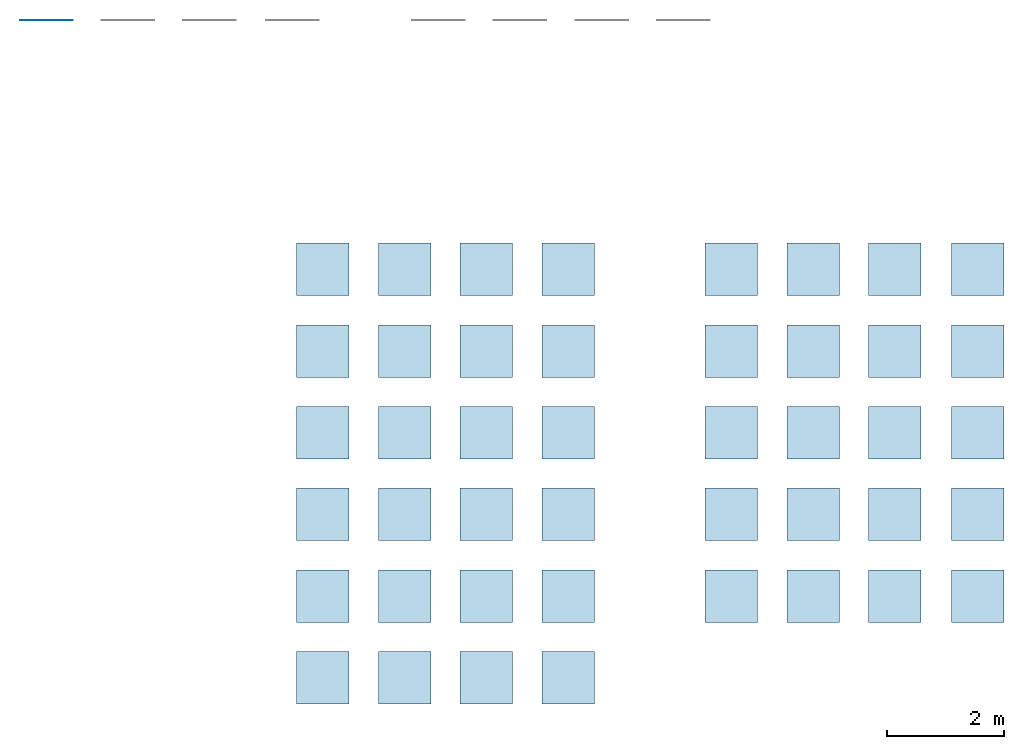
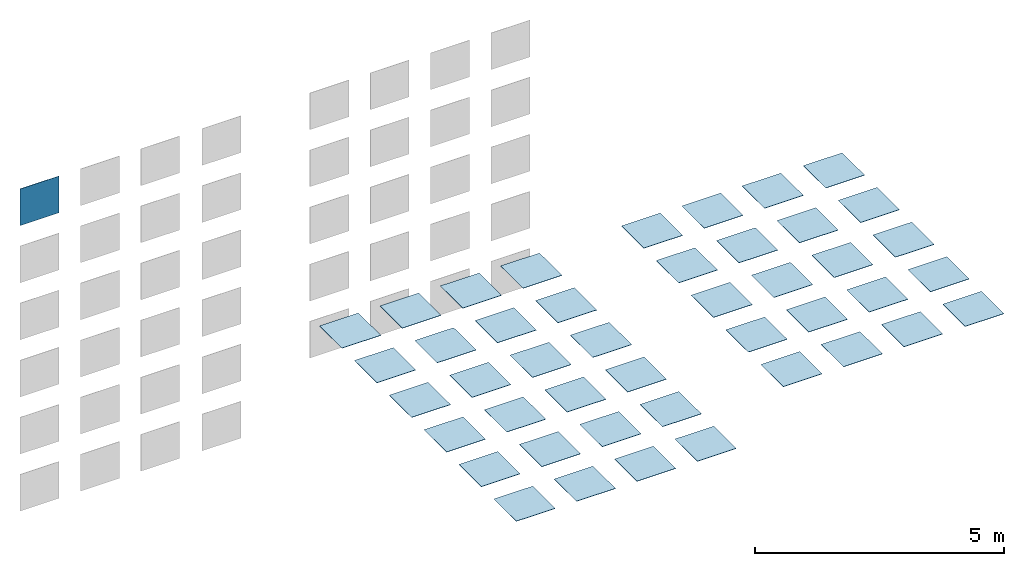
# One storey, part 1 of 3: 44 slabs, 1 wall.
"""IFC2X3 building model written with IfcOpenShell, lengths in metres."""

import ifcopenshell
import ifcopenshell.guid

model = None  # the IFC model being written
_history = None  # IfcOwnerHistory: only IFC2X3 demands one
_inside = {}  # id of a spatial element -> (the spatial element, [elements in it])
_under = {}  # id of a project, library or spatial element -> (it, [spatial elements below it])
_declared = {}  # id of a project -> (the project, [libraries it declares])
_typed = {}  # id of a type object -> (the type object, [elements of that type])
_made_of = {}  # id of a material, layer set ... -> (it, [elements and type objects made of it])


def new_model(schema):
    """Start an empty IFC model of exactly this schema.

    Asked for "IFC4X3", IfcOpenShell would pick the latest addendum, in which some entities
    have other attributes; the version numbers below select the first issue.
    IFC2X3 requires an IfcOwnerHistory on every rooted entity: one is made here for all.
    """
    global model, _history
    if schema == "IFC4X3":
        model = ifcopenshell.file(schema_version=(4, 3, 0, 0))
    else:
        model = ifcopenshell.file(schema=schema)
    _inside.clear()
    _under.clear()
    _declared.clear()
    _typed.clear()
    _made_of.clear()
    _history = None
    if model.schema == "IFC2X3":
        org = make("IfcOrganization", Name="unknown")
        user = make(
            "IfcPersonAndOrganization",
            ThePerson=make("IfcPerson", FamilyName="unknown"),
            TheOrganization=org,
        )
        app = make(
            "IfcApplication",
            ApplicationDeveloper=org,
            Version="unknown",
            ApplicationFullName="unknown",
            ApplicationIdentifier="unknown",
        )
        _history = make(
            "IfcOwnerHistory",
            OwningUser=user,
            OwningApplication=app,
            ChangeAction="ADDED",
            CreationDate=0,
        )
    return model


def make(cls, **values):
    """One entity of the class cls with the attributes given. An attribute that is None is left unset."""
    return model.create_entity(
        cls, **{name: value for name, value in values.items() if value is not None}
    )


def entity(cls, *values):
    """Any entity or typed value of the class cls, its attributes in the order of the schema. None: left unset."""
    e = model.create_entity(cls)
    for i, value in enumerate(values):
        if value is not None:
            e[i] = value
    return e


def rooted(cls, **values):
    """An entity with a GlobalId (a new one), such as an element, a storey or a relation."""
    return make(cls, GlobalId=ifcopenshell.guid.new(), OwnerHistory=_history, **values)


def si_unit(unit_type, name, prefix=None):
    """IfcSIUnit, for example si_unit("LENGTHUNIT", "METRE", prefix="MILLI")."""
    return make("IfcSIUnit", UnitType=unit_type, Prefix=prefix, Name=name)


def converted_unit(unit_type, name, factor, base, dimensions=None, offset=None):
    """IfcConversionBasedUnit, such as the inch: factor (a typed value) times the base unit."""
    return make(
        "IfcConversionBasedUnit"
        if offset is None
        else "IfcConversionBasedUnitWithOffset",
        ConversionOffset=offset,
        Dimensions=None
        if dimensions is None
        else entity("IfcDimensionalExponents", *dimensions),
        UnitType=unit_type,
        Name=name,
        ConversionFactor=make(
            "IfcMeasureWithUnit", ValueComponent=factor, UnitComponent=base
        ),
    )


def derived_unit(unit_type, elements):
    """IfcDerivedUnit: a product of units, each with its exponent."""
    return make(
        "IfcDerivedUnit",
        Elements=[
            make("IfcDerivedUnitElement", Unit=unit, Exponent=power)
            for unit, power in elements
        ],
        UnitType=unit_type,
    )


def assignment(units):
    """IfcUnitAssignment: the units of a project."""
    return None if units is None else make("IfcUnitAssignment", Units=units)


def point(xyz):
    """IfcCartesianPoint."""
    return None if xyz is None else make("IfcCartesianPoint", Coordinates=xyz)


def direction(xyz):
    """IfcDirection."""
    return None if xyz is None else make("IfcDirection", DirectionRatios=xyz)


def frame(location, z_axis=None, x_axis=None):
    """IfcAxis2Placement3D, a coordinate frame: its origin and axes. An axis left out is left unset."""
    return make(
        "IfcAxis2Placement3D",
        Location=point(location),
        Axis=direction(z_axis),
        RefDirection=direction(x_axis),
    )


def frame_2d(location, x_axis=None):
    """IfcAxis2Placement2D, a coordinate frame in the plane: its origin and x axis."""
    return make(
        "IfcAxis2Placement2D", Location=point(location), RefDirection=direction(x_axis)
    )


def origin():
    """The frame at (0, 0, 0) with its axes left unset."""
    return frame((0.0, 0.0, 0.0))


def origin_2d_with_axis():
    """The frame at (0, 0) in the plane with the x axis (1, 0) written out."""
    return frame_2d((0.0, 0.0), x_axis=(1.0, 0.0))


def place(relative_to, where):
    """IfcLocalPlacement: puts the frame where relative to a parent placement (None: the world)."""
    return make(
        "IfcLocalPlacement", PlacementRelTo=relative_to, RelativePlacement=where
    )


def context(
    kind, dimensions, precision=None, world=None, true_north=None, identifier=None
):
    """IfcGeometricRepresentationContext, for example the 3D "Model" context."""
    return make(
        "IfcGeometricRepresentationContext",
        ContextIdentifier=identifier,
        ContextType=kind,
        CoordinateSpaceDimension=dimensions,
        Precision=precision,
        WorldCoordinateSystem=world,
        TrueNorth=true_north,
    )


def subcontext(parent, identifier, kind, view, scale=None):
    """IfcGeometricRepresentationSubContext, for example "Body" below "Model"."""
    return make(
        "IfcGeometricRepresentationSubContext",
        ContextIdentifier=identifier,
        ContextType=kind,
        ParentContext=parent,
        TargetScale=scale,
        TargetView=view,
    )


def project(units=None, contexts=None):
    """IfcProject with its units and contexts."""
    return rooted(
        "IfcProject",
        Name="project",
        RepresentationContexts=contexts,
        UnitsInContext=assignment(units),
    )


def spatial(cls, under=None, at=None, **own):
    """A site, building, storey or space (cls), placed at a placement, below another one or the project."""
    s = rooted(cls, ObjectPlacement=at, **own)
    if under is not None:
        _under.setdefault(under.id(), (under, []))[1].append(s)
    return s


def profile(cls, at=None, kind="AREA", **sizes):
    """A parametric profile (cls). Its sizes go by their IFC names, for example OverallWidth=200.0."""
    return make(cls, ProfileType=kind, Position=at, **sizes)


def rectangle(**sizes):
    """IfcRectangleProfileDef."""
    return profile("IfcRectangleProfileDef", **sizes)


def extrude(swept, where, along, depth):
    """IfcExtrudedAreaSolid: the profile swept, set in the frame where, extruded along a direction by depth."""
    return make(
        "IfcExtrudedAreaSolid",
        SweptArea=swept,
        Position=where,
        ExtrudedDirection=direction(along),
        Depth=depth,
    )


def shape(context_of_items, identifier, shape_type, items):
    """IfcShapeRepresentation: the items that make up one representation, for example the "Body"."""
    return make(
        "IfcShapeRepresentation",
        ContextOfItems=context_of_items,
        RepresentationIdentifier=identifier,
        RepresentationType=shape_type,
        Items=items,
    )


def material(Name=None, Category=None):
    """IfcMaterial."""
    return make("IfcMaterial", Name=Name, Category=Category)


def layer(
    of_material, thickness, ventilated=None, Name=None, Category=None, Priority=None
):
    """IfcMaterialLayer: one layer of a wall or slab, of a material (None: an air gap)."""
    return make(
        "IfcMaterialLayer",
        Material=of_material,
        LayerThickness=thickness,
        IsVentilated=ventilated,
        Name=Name,
        Category=Category,
        Priority=Priority,
    )


def layer_set(layers, Name=None):
    """IfcMaterialLayerSet."""
    return make("IfcMaterialLayerSet", MaterialLayers=layers, LayerSetName=Name)


def layer_usage(for_layer_set, set_direction, sense, offset, extent=None):
    """IfcMaterialLayerSetUsage: how a layer set lies in its element."""
    return make(
        "IfcMaterialLayerSetUsage",
        ForLayerSet=for_layer_set,
        LayerSetDirection=set_direction,
        DirectionSense=sense,
        OffsetFromReferenceLine=offset,
        ReferenceExtent=extent,
    )


def made_of(thing, what):
    """Note that an element or type object is made of a material, layer set ...; save() writes the relation."""
    if what is not None:
        _made_of.setdefault(what.id(), (what, []))[1].append(thing)
    return thing


def type_object(cls, material=None, **own):
    """A type object (cls), such as IfcWallType, which elements share."""
    return made_of(rooted(cls, **own), material)


def element(
    cls,
    number,
    at=None,
    inside=None,
    cuts=None,
    type_object=None,
    material=None,
    context=None,
    identifier="Body",
    shape_type=None,
    held_by="IfcProductDefinitionShape",
    body=None,
    shapes=None,
    **own,
):
    """One element of the class cls, such as IfcWall. Its Tag is "e" and its number.

    at: its placement. inside: the storey or other place that contains it. cuts: it is an
    opening in that element (IfcRelVoidsElement). A single representation is given by context,
    identifier, shape_type and body (its items); several are given by shapes. held_by: the class
    of the entity that holds the representations. save() writes the other relations.
    """
    e = rooted(cls, Tag="e%d" % number, ObjectPlacement=at, **own)
    if body is not None:
        shapes = [shape(context, identifier, shape_type, body)]
    if shapes is not None:
        e.Representation = make(held_by, Representations=shapes)
    if inside is not None:
        _inside.setdefault(inside.id(), (inside, []))[1].append(e)
    if cuts is not None:
        rooted(
            "IfcRelVoidsElement", RelatingBuildingElement=cuts, RelatedOpeningElement=e
        )
    if type_object is not None:
        _typed.setdefault(type_object.id(), (type_object, []))[1].append(e)
    return made_of(e, material)


def aggregate(whole, parts):
    """IfcRelAggregates: a whole, such as a stair, and the parts it consists of."""
    return rooted("IfcRelAggregates", RelatingObject=whole, RelatedObjects=parts)


def save(model, path):
    """Write the relations noted so far, then the file.

    IfcRelAggregates (storeys below a building ...), IfcRelContainedInSpatialStructure (elements
    in a storey), IfcRelDefinesByType, IfcRelAssociatesMaterial and IfcRelDeclares: one each for
    every whole, place, type object, material and project.
    """
    for whole, parts in _under.values():
        aggregate(whole, parts)
    for where, things in _inside.values():
        rooted(
            "IfcRelContainedInSpatialStructure",
            RelatedElements=things,
            RelatingStructure=where,
        )
    for kind, things in _typed.values():
        rooted("IfcRelDefinesByType", RelatedObjects=things, RelatingType=kind)
    for what, things in _made_of.values():
        rooted("IfcRelAssociatesMaterial", RelatedObjects=things, RelatingMaterial=what)
    for by, libraries in _declared.values():
        rooted("IfcRelDeclares", RelatingContext=by, RelatedDefinitions=libraries)
    model.write(path)


model = new_model("IFC2X3")

# Units and contexts
model_context = context("Model", 3, precision=1e-05, world=origin(), true_north=direction((6.12303176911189e-17, 1.0)))
body_context = subcontext(model_context, "Body", "Model", "MODEL_VIEW")
ifc_project = project(units=[si_unit("LENGTHUNIT", "METRE"), si_unit("AREAUNIT", "SQUARE_METRE"), si_unit("VOLUMEUNIT", "CUBIC_METRE"), converted_unit("PLANEANGLEUNIT", "DEGREE", entity("IfcRatioMeasure", 0.0174532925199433), si_unit("PLANEANGLEUNIT", "RADIAN"), dimensions=[0, 0, 0, 0, 0, 0, 0]), si_unit("MASSUNIT", "GRAM", prefix="KILO"), si_unit("TIMEUNIT", "SECOND"), si_unit("FREQUENCYUNIT", "HERTZ"), si_unit("THERMODYNAMICTEMPERATUREUNIT", "DEGREE_CELSIUS"), derived_unit("THERMALTRANSMITTANCEUNIT", [(si_unit("MASSUNIT", "GRAM", prefix="KILO"), 1), (si_unit("THERMODYNAMICTEMPERATUREUNIT", "KELVIN"), -1), (si_unit("TIMEUNIT", "SECOND"), -3)]), derived_unit("VOLUMETRICFLOWRATEUNIT", [(si_unit("LENGTHUNIT", "METRE"), 3), (si_unit("TIMEUNIT", "SECOND"), -1)]), si_unit("ELECTRICCURRENTUNIT", "AMPERE"), si_unit("ELECTRICVOLTAGEUNIT", "VOLT"), si_unit("POWERUNIT", "WATT"), si_unit("FORCEUNIT", "NEWTON", prefix="KILO"), si_unit("ILLUMINANCEUNIT", "LUX"), si_unit("LUMINOUSFLUXUNIT", "LUMEN"), si_unit("LUMINOUSINTENSITYUNIT", "CANDELA"), derived_unit("USERDEFINED", [(si_unit("MASSUNIT", "GRAM", prefix="KILO"), -1), (si_unit("LENGTHUNIT", "METRE"), -2), (si_unit("TIMEUNIT", "SECOND"), 3), (si_unit("LUMINOUSFLUXUNIT", "LUMEN"), 1)]), derived_unit("LINEARVELOCITYUNIT", [(si_unit("LENGTHUNIT", "METRE"), 1), (si_unit("TIMEUNIT", "SECOND"), -1)]), si_unit("PRESSUREUNIT", "PASCAL"), derived_unit("USERDEFINED", [(si_unit("LENGTHUNIT", "METRE"), -2), (si_unit("MASSUNIT", "GRAM", prefix="KILO"), 1), (si_unit("TIMEUNIT", "SECOND"), -2)])], contexts=[model_context])

# Site, building, storey
site_placement = place(None, origin())
site = spatial("IfcSite", under=ifc_project, at=site_placement, Name="Default", CompositionType="ELEMENT")
building_placement = place(site_placement, origin())
building = spatial("IfcBuilding", under=site, at=building_placement, CompositionType="ELEMENT")
storey_placement = place(building_placement, origin())
storey = spatial("IfcBuildingStorey", under=building, at=storey_placement, Name="FARNESE FLOOR TILES", CompositionType="ELEMENT", Elevation=0.0)

# Slabs
ifc_material_1 = material(Name="VIVES FARNESE HUMO 30x30")
ifc_layer_1 = layer(ifc_material_1, 0.0082)
ifc_layer_set_1 = layer_set([ifc_layer_1], Name="Suelo:VIVES FARNESE HUMO 30x30")
ifc_layer_usage_1 = layer_usage(ifc_layer_set_1, "AXIS3", "POSITIVE", 0.0)
slab_1_placement = place(storey_placement, origin())
element("IfcSlab", 1, at=slab_1_placement, inside=storey, material=ifc_layer_usage_1, Name="Suelo:VIVES FARNESE HUMO 30x30", ObjectType="Suelo:VIVES FARNESE HUMO 30x30", PredefinedType="FLOOR", context=body_context, shape_type="SweptSolid", body=[
    extrude(rectangle(XDim=0.9, YDim=0.9, at=frame_2d((-5.27355936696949e-16, 0.0), x_axis=(1.0, 0.0))), frame((-2.39631870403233, -3.65029870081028, 0.0), z_axis=(0.0, 0.0, -1.0), x_axis=(0.0, 1.0, 0.0)), (0.0, 0.0, 1.0), 0.0082),
])
ifc_material_2 = material(Name="VIVES FARNESE CEMENTO 30x30")
ifc_layer_2 = layer(ifc_material_2, 0.0082)
ifc_layer_set_2 = layer_set([ifc_layer_2], Name="Suelo:VIVES FARNESE CEMENTO 30x30")
ifc_layer_usage_2 = layer_usage(ifc_layer_set_2, "AXIS3", "POSITIVE", 0.0)
slab_2_placement = place(storey_placement, origin())
element("IfcSlab", 2, at=slab_2_placement, inside=storey, material=ifc_layer_usage_2, Name="Suelo:VIVES FARNESE CEMENTO 30x30", ObjectType="Suelo:VIVES FARNESE CEMENTO 30x30", PredefinedType="FLOOR", context=body_context, shape_type="SweptSolid", body=[
    extrude(rectangle(XDim=0.9, YDim=0.9, at=frame_2d((-5.27355936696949e-16, 0.0), x_axis=(1.0, 0.0))), frame((-0.996318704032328, -3.65029870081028, 0.0), z_axis=(0.0, 0.0, -1.0), x_axis=(0.0, 1.0, 0.0)), (0.0, 0.0, 1.0), 0.0082),
])
ifc_material_3 = material(Name="VIVES FARNESE CREMA 30x30")
ifc_layer_3 = layer(ifc_material_3, 0.0082)
ifc_layer_set_3 = layer_set([ifc_layer_3], Name="Suelo:VIVES FARNESE CREMA 30x30 2")
ifc_layer_usage_3 = layer_usage(ifc_layer_set_3, "AXIS3", "POSITIVE", 0.0)
slab_3_placement = place(storey_placement, origin())
element("IfcSlab", 3, at=slab_3_placement, inside=storey, material=ifc_layer_usage_3, Name="Suelo:VIVES FARNESE CREMA 30x30 2", ObjectType="Suelo:VIVES FARNESE CREMA 30x30 2", PredefinedType="FLOOR", context=body_context, shape_type="SweptSolid", body=[
    extrude(rectangle(XDim=0.9, YDim=0.9, at=frame_2d((-5.27355936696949e-16, 0.0), x_axis=(1.0, 0.0))), frame((0.403681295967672, -3.65029870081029, 0.0), z_axis=(0.0, 0.0, -1.0), x_axis=(0.0, 1.0, 0.0)), (0.0, 0.0, 1.0), 0.0082),
])
ifc_material_4 = material(Name="VIVES FARNESE GRAFITO 30x30")
ifc_layer_4 = layer(ifc_material_4, 0.0082)
ifc_layer_set_4 = layer_set([ifc_layer_4], Name="Suelo:VIVES FARNESE GRAFITO 30x30")
ifc_layer_usage_4 = layer_usage(ifc_layer_set_4, "AXIS3", "POSITIVE", 0.0)
slab_4_placement = place(storey_placement, origin())
element("IfcSlab", 4, at=slab_4_placement, inside=storey, material=ifc_layer_usage_4, Name="Suelo:VIVES FARNESE GRAFITO 30x30", ObjectType="Suelo:VIVES FARNESE GRAFITO 30x30", PredefinedType="FLOOR", context=body_context, shape_type="SweptSolid", body=[
    extrude(rectangle(XDim=0.9, YDim=0.9, at=frame_2d((-5.27355936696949e-16, 0.0), x_axis=(1.0, 0.0))), frame((1.80368129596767, -3.65029870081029, 0.0), z_axis=(0.0, 0.0, -1.0), x_axis=(0.0, 1.0, 0.0)), (0.0, 0.0, 1.0), 0.0082),
])
ifc_material_5 = material(Name="VIVES AMALFI HUMO 30x30")
ifc_layer_5 = layer(ifc_material_5, 0.0082)
ifc_layer_set_5 = layer_set([ifc_layer_5], Name="Suelo:VIVES AMALFI HUMO 30X30")
ifc_layer_usage_5 = layer_usage(ifc_layer_set_5, "AXIS3", "POSITIVE", 0.0)
slab_5_placement = place(storey_placement, origin())
element("IfcSlab", 5, at=slab_5_placement, inside=storey, material=ifc_layer_usage_5, Name="Suelo:VIVES AMALFI HUMO 30X30", ObjectType="Suelo:VIVES AMALFI HUMO 30X30", PredefinedType="FLOOR", context=body_context, shape_type="SweptSolid", body=[
    extrude(rectangle(XDim=0.9, YDim=0.9, at=frame_2d((-5.27355936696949e-16, 0.0), x_axis=(1.0, 0.0))), frame((-2.39631870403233, -5.05029870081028, 0.0), z_axis=(0.0, 0.0, -1.0), x_axis=(0.0, 1.0, 0.0)), (0.0, 0.0, 1.0), 0.0082),
])
ifc_material_6 = material(Name="VIVES AMALFI CEMENTO 30x30")
ifc_layer_6 = layer(ifc_material_6, 0.0082)
ifc_layer_set_6 = layer_set([ifc_layer_6], Name="Suelo:VIVES AMALFI CEMENTO 30x30")
ifc_layer_usage_6 = layer_usage(ifc_layer_set_6, "AXIS3", "POSITIVE", 0.0)
slab_6_placement = place(storey_placement, origin())
element("IfcSlab", 6, at=slab_6_placement, inside=storey, material=ifc_layer_usage_6, Name="Suelo:VIVES AMALFI CEMENTO 30x30", ObjectType="Suelo:VIVES AMALFI CEMENTO 30x30", PredefinedType="FLOOR", context=body_context, shape_type="SweptSolid", body=[
    extrude(rectangle(XDim=0.9, YDim=0.9, at=frame_2d((-5.27355936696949e-16, 0.0), x_axis=(1.0, 0.0))), frame((-0.99631870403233, -5.05029870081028, 0.0), z_axis=(0.0, 0.0, -1.0), x_axis=(0.0, 1.0, 0.0)), (0.0, 0.0, 1.0), 0.0082),
])
ifc_material_7 = material(Name="VIVES AMALFI CREMA 30x30")
ifc_layer_7 = layer(ifc_material_7, 0.0082)
ifc_layer_set_7 = layer_set([ifc_layer_7], Name="Suelo:VIVES AMALFI CREMA 30x30")
ifc_layer_usage_7 = layer_usage(ifc_layer_set_7, "AXIS3", "POSITIVE", 0.0)
slab_7_placement = place(storey_placement, origin())
element("IfcSlab", 7, at=slab_7_placement, inside=storey, material=ifc_layer_usage_7, Name="Suelo:VIVES AMALFI CREMA 30x30", ObjectType="Suelo:VIVES AMALFI CREMA 30x30", PredefinedType="FLOOR", context=body_context, shape_type="SweptSolid", body=[
    extrude(rectangle(XDim=0.9, YDim=0.9, at=frame_2d((-5.27355936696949e-16, 0.0), x_axis=(1.0, 0.0))), frame((0.40368129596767, -5.05029870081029, 0.0), z_axis=(0.0, 0.0, -1.0), x_axis=(0.0, 1.0, 0.0)), (0.0, 0.0, 1.0), 0.0082),
])
ifc_material_8 = material(Name="VIVES AMALFI GRAFITO 30x30")
ifc_layer_8 = layer(ifc_material_8, 0.0082)
ifc_layer_set_8 = layer_set([ifc_layer_8], Name="Suelo:VIVES AMALFI GRAFITO 30x30")
ifc_layer_usage_8 = layer_usage(ifc_layer_set_8, "AXIS3", "POSITIVE", 0.0)
slab_8_placement = place(storey_placement, origin())
element("IfcSlab", 8, at=slab_8_placement, inside=storey, material=ifc_layer_usage_8, Name="Suelo:VIVES AMALFI GRAFITO 30x30", ObjectType="Suelo:VIVES AMALFI GRAFITO 30x30", PredefinedType="FLOOR", context=body_context, shape_type="SweptSolid", body=[
    extrude(rectangle(XDim=0.9, YDim=0.9, at=frame_2d((-5.27355936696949e-16, 0.0), x_axis=(1.0, 0.0))), frame((1.80368129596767, -5.05029870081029, 0.0), z_axis=(0.0, 0.0, -1.0), x_axis=(0.0, 1.0, 0.0)), (0.0, 0.0, 1.0), 0.0082),
])
ifc_material_9 = material(Name="VIVES AMALFI AZUL 30x30")
ifc_layer_9 = layer(ifc_material_9, 0.0082)
ifc_layer_set_9 = layer_set([ifc_layer_9], Name="Suelo:VIVES AMALFI AZUL 30X30")
ifc_layer_usage_9 = layer_usage(ifc_layer_set_9, "AXIS3", "POSITIVE", 0.0)
slab_9_placement = place(storey_placement, origin())
element("IfcSlab", 9, at=slab_9_placement, inside=storey, material=ifc_layer_usage_9, Name="Suelo:VIVES AMALFI AZUL 30X30", ObjectType="Suelo:VIVES AMALFI AZUL 30X30", PredefinedType="FLOOR", context=body_context, shape_type="SweptSolid", body=[
    extrude(rectangle(XDim=0.900000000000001, YDim=0.9, at=origin_2d_with_axis()), frame((-2.39631870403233, -6.45029870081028, 0.0), z_axis=(0.0, 0.0, -1.0), x_axis=(0.0, 1.0, 0.0)), (0.0, 0.0, 1.0), 0.0082),
])
ifc_material_10 = material(Name="VIVES AMALFI MAR 30x30")
ifc_layer_10 = layer(ifc_material_10, 0.0082)
ifc_layer_set_10 = layer_set([ifc_layer_10], Name="Suelo:VIVES AMALFI MAR 30x30")
ifc_layer_usage_10 = layer_usage(ifc_layer_set_10, "AXIS3", "POSITIVE", 0.0)
slab_10_placement = place(storey_placement, origin())
element("IfcSlab", 10, at=slab_10_placement, inside=storey, material=ifc_layer_usage_10, Name="Suelo:VIVES AMALFI MAR 30x30", ObjectType="Suelo:VIVES AMALFI MAR 30x30", PredefinedType="FLOOR", context=body_context, shape_type="SweptSolid", body=[
    extrude(rectangle(XDim=0.900000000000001, YDim=0.9, at=origin_2d_with_axis()), frame((-0.996318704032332, -6.45029870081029, 0.0), z_axis=(0.0, 0.0, -1.0), x_axis=(0.0, 1.0, 0.0)), (0.0, 0.0, 1.0), 0.0082),
])
ifc_material_11 = material(Name="VIVES AMALFI BEIGE 30x30")
ifc_layer_11 = layer(ifc_material_11, 0.0082)
ifc_layer_set_11 = layer_set([ifc_layer_11], Name="Suelo:VIVES AMALFI BEIGE 30x30")
ifc_layer_usage_11 = layer_usage(ifc_layer_set_11, "AXIS3", "POSITIVE", 0.0)
slab_11_placement = place(storey_placement, origin())
element("IfcSlab", 11, at=slab_11_placement, inside=storey, material=ifc_layer_usage_11, Name="Suelo:VIVES AMALFI BEIGE 30x30", ObjectType="Suelo:VIVES AMALFI BEIGE 30x30", PredefinedType="FLOOR", context=body_context, shape_type="SweptSolid", body=[
    extrude(rectangle(XDim=0.900000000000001, YDim=0.9, at=origin_2d_with_axis()), frame((0.403681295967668, -6.45029870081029, 0.0), z_axis=(0.0, 0.0, -1.0), x_axis=(0.0, 1.0, 0.0)), (0.0, 0.0, 1.0), 0.0082),
])
ifc_material_12 = material(Name="VIVES AMALFI ROSA 30x30")
ifc_layer_12 = layer(ifc_material_12, 0.0082)
ifc_layer_set_12 = layer_set([ifc_layer_12], Name="Suelo:VIVES AMALFI ROSA 30x30")
ifc_layer_usage_12 = layer_usage(ifc_layer_set_12, "AXIS3", "POSITIVE", 0.0)
slab_12_placement = place(storey_placement, origin())
element("IfcSlab", 12, at=slab_12_placement, inside=storey, material=ifc_layer_usage_12, Name="Suelo:VIVES AMALFI ROSA 30x30", ObjectType="Suelo:VIVES AMALFI ROSA 30x30", PredefinedType="FLOOR", context=body_context, shape_type="SweptSolid", body=[
    extrude(rectangle(XDim=0.900000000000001, YDim=0.9, at=origin_2d_with_axis()), frame((1.80368129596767, -6.45029870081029, 0.0), z_axis=(0.0, 0.0, -1.0), x_axis=(0.0, 1.0, 0.0)), (0.0, 0.0, 1.0), 0.0082),
])
ifc_material_13 = material(Name="VIVES MANCINI HUMO 30x30")
ifc_layer_13 = layer(ifc_material_13, 0.0082)
ifc_layer_set_13 = layer_set([ifc_layer_13], Name="Suelo:VIVES MANCINI HUMO 30X30")
ifc_layer_usage_13 = layer_usage(ifc_layer_set_13, "AXIS3", "POSITIVE", 0.0)
slab_13_placement = place(storey_placement, origin())
element("IfcSlab", 13, at=slab_13_placement, inside=storey, material=ifc_layer_usage_13, Name="Suelo:VIVES MANCINI HUMO 30X30", ObjectType="Suelo:VIVES MANCINI HUMO 30X30", PredefinedType="FLOOR", context=body_context, shape_type="SweptSolid", body=[
    extrude(rectangle(XDim=0.900000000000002, YDim=0.9, at=frame_2d((-5.55111512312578e-16, 0.0), x_axis=(1.0, 0.0))), frame((-2.39631870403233, -7.85029870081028, 0.0), z_axis=(0.0, 0.0, -1.0), x_axis=(0.0, 1.0, 0.0)), (0.0, 0.0, 1.0), 0.0082),
])
ifc_material_14 = material(Name="VIVES MANCINI CEMENTO 30x30")
ifc_layer_14 = layer(ifc_material_14, 0.0082)
ifc_layer_set_14 = layer_set([ifc_layer_14], Name="Suelo:VIVES MANCINI CEMENTO 30x30")
ifc_layer_usage_14 = layer_usage(ifc_layer_set_14, "AXIS3", "POSITIVE", 0.0)
slab_14_placement = place(storey_placement, origin())
element("IfcSlab", 14, at=slab_14_placement, inside=storey, material=ifc_layer_usage_14, Name="Suelo:VIVES MANCINI CEMENTO 30x30", ObjectType="Suelo:VIVES MANCINI CEMENTO 30x30", PredefinedType="FLOOR", context=body_context, shape_type="SweptSolid", body=[
    extrude(rectangle(XDim=0.900000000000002, YDim=0.9, at=frame_2d((-5.55111512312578e-16, 0.0), x_axis=(1.0, 0.0))), frame((-0.996318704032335, -7.85029870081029, 0.0), z_axis=(0.0, 0.0, -1.0), x_axis=(0.0, 1.0, 0.0)), (0.0, 0.0, 1.0), 0.0082),
])
ifc_material_15 = material(Name="VIVES MANCINI CREMA 30x30")
ifc_layer_15 = layer(ifc_material_15, 0.0082)
ifc_layer_set_15 = layer_set([ifc_layer_15], Name="Suelo:VIVES MANCINI CREMA 30x30")
ifc_layer_usage_15 = layer_usage(ifc_layer_set_15, "AXIS3", "POSITIVE", 0.0)
slab_15_placement = place(storey_placement, origin())
element("IfcSlab", 15, at=slab_15_placement, inside=storey, material=ifc_layer_usage_15, Name="Suelo:VIVES MANCINI CREMA 30x30", ObjectType="Suelo:VIVES MANCINI CREMA 30x30", PredefinedType="FLOOR", context=body_context, shape_type="SweptSolid", body=[
    extrude(rectangle(XDim=0.900000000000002, YDim=0.9, at=frame_2d((-5.55111512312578e-16, 0.0), x_axis=(1.0, 0.0))), frame((0.403681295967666, -7.85029870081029, 0.0), z_axis=(0.0, 0.0, -1.0), x_axis=(0.0, 1.0, 0.0)), (0.0, 0.0, 1.0), 0.0082),
])
ifc_layer_16 = layer(ifc_material_12, 0.0082)
ifc_layer_set_16 = layer_set([ifc_layer_16], Name="Suelo:VIVES MANCINI GRAFITO 30x30")
ifc_layer_usage_16 = layer_usage(ifc_layer_set_16, "AXIS3", "POSITIVE", 0.0)
slab_16_placement = place(storey_placement, origin())
element("IfcSlab", 16, at=slab_16_placement, inside=storey, material=ifc_layer_usage_16, Name="Suelo:VIVES MANCINI GRAFITO 30x30", ObjectType="Suelo:VIVES MANCINI GRAFITO 30x30", PredefinedType="FLOOR", context=body_context, shape_type="SweptSolid", body=[
    extrude(rectangle(XDim=0.900000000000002, YDim=0.9, at=frame_2d((-5.55111512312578e-16, 0.0), x_axis=(1.0, 0.0))), frame((1.80368129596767, -7.8502987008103, 0.0), z_axis=(0.0, 0.0, -1.0), x_axis=(0.0, 1.0, 0.0)), (0.0, 0.0, 1.0), 0.0082),
])
ifc_material_16 = material(Name="VIVES MANCINI AZUL 30x30")
ifc_layer_17 = layer(ifc_material_16, 0.0082)
ifc_layer_set_17 = layer_set([ifc_layer_17], Name="Suelo:VIVES MANCINI AZUL 30X30")
ifc_layer_usage_17 = layer_usage(ifc_layer_set_17, "AXIS3", "POSITIVE", 0.0)
slab_17_placement = place(storey_placement, origin())
element("IfcSlab", 17, at=slab_17_placement, inside=storey, material=ifc_layer_usage_17, Name="Suelo:VIVES MANCINI AZUL 30X30", ObjectType="Suelo:VIVES MANCINI AZUL 30X30", PredefinedType="FLOOR", context=body_context, shape_type="SweptSolid", body=[
    extrude(rectangle(XDim=0.900000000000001, YDim=0.9, at=origin_2d_with_axis()), frame((-2.39631870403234, -9.25029870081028, 0.0), z_axis=(0.0, 0.0, -1.0), x_axis=(0.0, 1.0, 0.0)), (0.0, 0.0, 1.0), 0.0082),
])
ifc_material_17 = material(Name="VIVES MANCINI MAR 30x30")
ifc_layer_18 = layer(ifc_material_17, 0.0082)
ifc_layer_set_18 = layer_set([ifc_layer_18], Name="Suelo:VIVES MANCINI MAR 30x30")
ifc_layer_usage_18 = layer_usage(ifc_layer_set_18, "AXIS3", "POSITIVE", 0.0)
slab_18_placement = place(storey_placement, origin())
element("IfcSlab", 18, at=slab_18_placement, inside=storey, material=ifc_layer_usage_18, Name="Suelo:VIVES MANCINI MAR 30x30", ObjectType="Suelo:VIVES MANCINI MAR 30x30", PredefinedType="FLOOR", context=body_context, shape_type="SweptSolid", body=[
    extrude(rectangle(XDim=0.900000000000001, YDim=0.9, at=origin_2d_with_axis()), frame((-0.996318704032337, -9.25029870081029, 0.0), z_axis=(0.0, 0.0, -1.0), x_axis=(0.0, 1.0, 0.0)), (0.0, 0.0, 1.0), 0.0082),
])
ifc_material_18 = material(Name="VIVES MANCINI BEIGE 30x30")
ifc_layer_19 = layer(ifc_material_18, 0.0082)
ifc_layer_set_19 = layer_set([ifc_layer_19], Name="Suelo:VIVES MANCINI BEIGE 30x30")
ifc_layer_usage_19 = layer_usage(ifc_layer_set_19, "AXIS3", "POSITIVE", 0.0)
slab_19_placement = place(storey_placement, origin())
element("IfcSlab", 19, at=slab_19_placement, inside=storey, material=ifc_layer_usage_19, Name="Suelo:VIVES MANCINI BEIGE 30x30", ObjectType="Suelo:VIVES MANCINI BEIGE 30x30", PredefinedType="FLOOR", context=body_context, shape_type="SweptSolid", body=[
    extrude(rectangle(XDim=0.900000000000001, YDim=0.9, at=origin_2d_with_axis()), frame((0.403681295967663, -9.25029870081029, 0.0), z_axis=(0.0, 0.0, -1.0), x_axis=(0.0, 1.0, 0.0)), (0.0, 0.0, 1.0), 0.0082),
])
ifc_layer_usage_20 = layer_usage(ifc_layer_set_16, "AXIS3", "POSITIVE", 0.0)
slab_20_placement = place(storey_placement, origin())
element("IfcSlab", 20, at=slab_20_placement, inside=storey, material=ifc_layer_usage_20, Name="Suelo:VIVES MANCINI GRAFITO 30x30", ObjectType="Suelo:VIVES MANCINI GRAFITO 30x30", PredefinedType="FLOOR", context=body_context, shape_type="SweptSolid", body=[
    extrude(rectangle(XDim=0.900000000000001, YDim=0.9, at=origin_2d_with_axis()), frame((1.80368129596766, -9.2502987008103, 0.0), z_axis=(0.0, 0.0, -1.0), x_axis=(0.0, 1.0, 0.0)), (0.0, 0.0, 1.0), 0.0082),
])
ifc_material_19 = material(Name="VIVES CAVOUR CEMENTO 30x30")
ifc_layer_20 = layer(ifc_material_19, 0.0082)
ifc_layer_set_20 = layer_set([ifc_layer_20], Name="Suelo:VIVES CAVOUR CEMENTO 30x30")
ifc_layer_usage_21 = layer_usage(ifc_layer_set_20, "AXIS3", "POSITIVE", 0.0)
slab_21_placement = place(storey_placement, origin())
element("IfcSlab", 21, at=slab_21_placement, inside=storey, material=ifc_layer_usage_21, Name="Suelo:VIVES CAVOUR CEMENTO 30x30", ObjectType="Suelo:VIVES CAVOUR CEMENTO 30x30", PredefinedType="FLOOR", context=body_context, shape_type="SweptSolid", body=[
    extrude(rectangle(XDim=0.900000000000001, YDim=0.9, at=frame_2d((1.08246744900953e-15, 0.0), x_axis=(1.0, 0.0))), frame((-2.39631870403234, -10.6502987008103, 0.0), z_axis=(0.0, 0.0, -1.0), x_axis=(0.0, 1.0, 0.0)), (0.0, 0.0, 1.0), 0.0082),
])
ifc_material_20 = material(Name="VIVES CAVOUR AZUL 30x30")
ifc_layer_21 = layer(ifc_material_20, 0.0082)
ifc_layer_set_21 = layer_set([ifc_layer_21], Name="Suelo:VIVES CAVOUR AZUL 30x30")
ifc_layer_usage_22 = layer_usage(ifc_layer_set_21, "AXIS3", "POSITIVE", 0.0)
slab_22_placement = place(storey_placement, origin())
element("IfcSlab", 22, at=slab_22_placement, inside=storey, material=ifc_layer_usage_22, Name="Suelo:VIVES CAVOUR AZUL 30x30", ObjectType="Suelo:VIVES CAVOUR AZUL 30x30", PredefinedType="FLOOR", context=body_context, shape_type="SweptSolid", body=[
    extrude(rectangle(XDim=0.900000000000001, YDim=0.9, at=frame_2d((1.08246744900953e-15, 0.0), x_axis=(1.0, 0.0))), frame((-0.996318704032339, -10.6502987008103, 0.0), z_axis=(0.0, 0.0, -1.0), x_axis=(0.0, 1.0, 0.0)), (0.0, 0.0, 1.0), 0.0082),
])
ifc_material_21 = material(Name="VIVES GADNER CREMA 30x30")
ifc_layer_22 = layer(ifc_material_21, 0.0082)
ifc_layer_set_22 = layer_set([ifc_layer_22], Name="Suelo:VIVES GADNER CREMA 30x30")
ifc_layer_usage_23 = layer_usage(ifc_layer_set_22, "AXIS3", "POSITIVE", 0.0)
slab_23_placement = place(storey_placement, origin())
element("IfcSlab", 23, at=slab_23_placement, inside=storey, material=ifc_layer_usage_23, Name="Suelo:VIVES GADNER CREMA 30x30", ObjectType="Suelo:VIVES GADNER CREMA 30x30", PredefinedType="FLOOR", context=body_context, shape_type="SweptSolid", body=[
    extrude(rectangle(XDim=0.900000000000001, YDim=0.9, at=frame_2d((1.08246744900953e-15, 0.0), x_axis=(1.0, 0.0))), frame((0.403681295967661, -10.6502987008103, 0.0), z_axis=(0.0, 0.0, -1.0), x_axis=(0.0, 1.0, 0.0)), (0.0, 0.0, 1.0), 0.0082),
])
ifc_material_22 = material(Name="VIVES GADNER CEMENTO 30x30")
ifc_layer_23 = layer(ifc_material_22, 0.0082)
ifc_layer_set_23 = layer_set([ifc_layer_23], Name="Suelo:VIVES GADNER CEMENTO 30x30")
ifc_layer_usage_24 = layer_usage(ifc_layer_set_23, "AXIS3", "POSITIVE", 0.0)
slab_24_placement = place(storey_placement, origin())
element("IfcSlab", 24, at=slab_24_placement, inside=storey, material=ifc_layer_usage_24, Name="Suelo:VIVES GADNER CEMENTO 30x30", ObjectType="Suelo:VIVES GADNER CEMENTO 30x30", PredefinedType="FLOOR", context=body_context, shape_type="SweptSolid", body=[
    extrude(rectangle(XDim=0.900000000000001, YDim=0.9, at=frame_2d((1.08246744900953e-15, 0.0), x_axis=(1.0, 0.0))), frame((1.80368129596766, -10.6502987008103, 0.0), z_axis=(0.0, 0.0, -1.0), x_axis=(0.0, 1.0, 0.0)), (0.0, 0.0, 1.0), 0.0082),
])
ifc_material_23 = material(Name="VIVES FARNESE-R HUMO 29.3x29.3")
ifc_layer_24 = layer(ifc_material_23, 0.0082)
ifc_layer_set_24 = layer_set([ifc_layer_24], Name="Suelo:VIVES FARNESE-R HUMO 29.3X29.3")
ifc_layer_usage_25 = layer_usage(ifc_layer_set_24, "AXIS3", "POSITIVE", 0.0)
slab_25_placement = place(storey_placement, origin())
element("IfcSlab", 25, at=slab_25_placement, inside=storey, material=ifc_layer_usage_25, Name="Suelo:VIVES FARNESE-R HUMO 29.3X29.3", ObjectType="Suelo:VIVES FARNESE-R HUMO 29.3X29.3", PredefinedType="FLOOR", context=body_context, shape_type="SweptSolid", body=[
    extrude(rectangle(XDim=0.9, YDim=0.9, at=origin_2d_with_axis()), frame((4.60368129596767, -3.6502987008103, 0.0), z_axis=(0.0, 0.0, -1.0), x_axis=(0.0, 1.0, 0.0)), (0.0, 0.0, 1.0), 0.0082),
])
ifc_material_24 = material(Name="VIVES FARNESE-R CEMENTO 29.3x29.3")
ifc_layer_25 = layer(ifc_material_24, 0.0082)
ifc_layer_set_25 = layer_set([ifc_layer_25], Name="Suelo:VIVES FARNESE-R CEMENTO 29.3X29.3")
ifc_layer_usage_26 = layer_usage(ifc_layer_set_25, "AXIS3", "POSITIVE", 0.0)
slab_26_placement = place(storey_placement, origin())
element("IfcSlab", 26, at=slab_26_placement, inside=storey, material=ifc_layer_usage_26, Name="Suelo:VIVES FARNESE-R CEMENTO 29.3X29.3", ObjectType="Suelo:VIVES FARNESE-R CEMENTO 29.3X29.3", PredefinedType="FLOOR", context=body_context, shape_type="SweptSolid", body=[
    extrude(rectangle(XDim=0.9, YDim=0.9, at=frame_2d((0.0, -5.27355936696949e-16), x_axis=(1.0, 0.0))), frame((6.00368129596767, -3.65029870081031, 0.0), z_axis=(0.0, 0.0, -1.0), x_axis=(0.0, 1.0, 0.0)), (0.0, 0.0, 1.0), 0.0082),
])
ifc_material_25 = material(Name="VIVES FARNESE-R CREMA 29.3x29.3")
ifc_layer_26 = layer(ifc_material_25, 0.0082)
ifc_layer_set_26 = layer_set([ifc_layer_26], Name="Suelo:VIVES FARNESE-R CREMA 29.3X29.3")
ifc_layer_usage_27 = layer_usage(ifc_layer_set_26, "AXIS3", "POSITIVE", 0.0)
slab_27_placement = place(storey_placement, origin())
element("IfcSlab", 27, at=slab_27_placement, inside=storey, material=ifc_layer_usage_27, Name="Suelo:VIVES FARNESE-R CREMA 29.3X29.3", ObjectType="Suelo:VIVES FARNESE-R CREMA 29.3X29.3", PredefinedType="FLOOR", context=body_context, shape_type="SweptSolid", body=[
    extrude(rectangle(XDim=0.9, YDim=0.9, at=frame_2d((0.0, -5.27355936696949e-16), x_axis=(1.0, 0.0))), frame((7.40368129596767, -3.65029870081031, 0.0), z_axis=(0.0, 0.0, -1.0), x_axis=(0.0, 1.0, 0.0)), (0.0, 0.0, 1.0), 0.0082),
])
ifc_material_26 = material(Name="VIVES FARNESE-R GRAFITO 29.3x29.3")
ifc_layer_27 = layer(ifc_material_26, 0.0082)
ifc_layer_set_27 = layer_set([ifc_layer_27], Name="Suelo:VIVES FARNESE-R GRAFITO 29.3X29.3")
ifc_layer_usage_28 = layer_usage(ifc_layer_set_27, "AXIS3", "POSITIVE", 0.0)
slab_28_placement = place(storey_placement, origin())
element("IfcSlab", 28, at=slab_28_placement, inside=storey, material=ifc_layer_usage_28, Name="Suelo:VIVES FARNESE-R GRAFITO 29.3X29.3", ObjectType="Suelo:VIVES FARNESE-R GRAFITO 29.3X29.3", PredefinedType="FLOOR", context=body_context, shape_type="SweptSolid", body=[
    extrude(rectangle(XDim=0.9, YDim=0.9, at=frame_2d((0.0, 5.27355936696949e-16), x_axis=(1.0, 0.0))), frame((8.82368129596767, -3.65029870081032, 0.0), z_axis=(0.0, 0.0, -1.0), x_axis=(0.0, 1.0, 0.0)), (0.0, 0.0, 1.0), 0.0082),
])
ifc_material_27 = material(Name="VIVES AMALFI-R HUMO 29.3x29.3")
ifc_layer_28 = layer(ifc_material_27, 0.0082)
ifc_layer_set_28 = layer_set([ifc_layer_28], Name="Suelo:VIVES AMALFI-R HUMO 29.3X29.3")
ifc_layer_usage_29 = layer_usage(ifc_layer_set_28, "AXIS3", "POSITIVE", 0.0)
slab_29_placement = place(storey_placement, origin())
element("IfcSlab", 29, at=slab_29_placement, inside=storey, material=ifc_layer_usage_29, Name="Suelo:VIVES AMALFI-R HUMO 29.3X29.3", ObjectType="Suelo:VIVES AMALFI-R HUMO 29.3X29.3", PredefinedType="FLOOR", context=body_context, shape_type="SweptSolid", body=[
    extrude(rectangle(XDim=0.9, YDim=0.9, at=frame_2d((5.27355936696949e-16, 0.0), x_axis=(1.0, 0.0))), frame((4.60368129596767, -5.0502987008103, 0.0), z_axis=(0.0, 0.0, -1.0), x_axis=(0.0, 1.0, 0.0)), (0.0, 0.0, 1.0), 0.0082),
])
ifc_material_28 = material(Name="VIVES AMALFI-R CEMENTO 29.3x29.3")
ifc_layer_29 = layer(ifc_material_28, 0.0082)
ifc_layer_set_29 = layer_set([ifc_layer_29], Name="Suelo:VIVES AMALFI-R CEMENTO 29.3X29.3")
ifc_layer_usage_30 = layer_usage(ifc_layer_set_29, "AXIS3", "POSITIVE", 0.0)
slab_30_placement = place(storey_placement, origin())
element("IfcSlab", 30, at=slab_30_placement, inside=storey, material=ifc_layer_usage_30, Name="Suelo:VIVES AMALFI-R CEMENTO 29.3X29.3", ObjectType="Suelo:VIVES AMALFI-R CEMENTO 29.3X29.3", PredefinedType="FLOOR", context=body_context, shape_type="SweptSolid", body=[
    extrude(rectangle(XDim=0.9, YDim=0.9, at=frame_2d((5.27355936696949e-16, -5.27355936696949e-16), x_axis=(1.0, 0.0))), frame((6.00368129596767, -5.05029870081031, 0.0), z_axis=(0.0, 0.0, -1.0), x_axis=(0.0, 1.0, 0.0)), (0.0, 0.0, 1.0), 0.0082),
])
ifc_material_29 = material(Name="VIVES AMALFI-R CREMA 29.3x29.3")
ifc_layer_30 = layer(ifc_material_29, 0.0082)
ifc_layer_set_30 = layer_set([ifc_layer_30], Name="Suelo:VIVES AMALFI-R CREMA 29.3X29.3")
ifc_layer_usage_31 = layer_usage(ifc_layer_set_30, "AXIS3", "POSITIVE", 0.0)
slab_31_placement = place(storey_placement, origin())
element("IfcSlab", 31, at=slab_31_placement, inside=storey, material=ifc_layer_usage_31, Name="Suelo:VIVES AMALFI-R CREMA 29.3X29.3", ObjectType="Suelo:VIVES AMALFI-R CREMA 29.3X29.3", PredefinedType="FLOOR", context=body_context, shape_type="SweptSolid", body=[
    extrude(rectangle(XDim=0.9, YDim=0.9, at=frame_2d((5.27355936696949e-16, 5.27355936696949e-16), x_axis=(1.0, 0.0))), frame((7.40368129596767, -5.05029870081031, 0.0), z_axis=(0.0, 0.0, -1.0), x_axis=(0.0, 1.0, 0.0)), (0.0, 0.0, 1.0), 0.0082),
])
ifc_material_30 = material(Name="VIVES AMALFI-R GRAFITO 29.3x29.3")
ifc_layer_31 = layer(ifc_material_30, 0.0082)
ifc_layer_set_31 = layer_set([ifc_layer_31], Name="Suelo:VIVES AMALFI-R GRAFITO 29.3X29.3")
ifc_layer_usage_32 = layer_usage(ifc_layer_set_31, "AXIS3", "POSITIVE", 0.0)
slab_32_placement = place(storey_placement, origin())
element("IfcSlab", 32, at=slab_32_placement, inside=storey, material=ifc_layer_usage_32, Name="Suelo:VIVES AMALFI-R GRAFITO 29.3X29.3", ObjectType="Suelo:VIVES AMALFI-R GRAFITO 29.3X29.3", PredefinedType="FLOOR", context=body_context, shape_type="SweptSolid", body=[
    extrude(rectangle(XDim=0.9, YDim=0.9, at=frame_2d((5.27355936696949e-16, -5.27355936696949e-16), x_axis=(1.0, 0.0))), frame((8.82368129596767, -5.05029870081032, 0.0), z_axis=(0.0, 0.0, -1.0), x_axis=(0.0, 1.0, 0.0)), (0.0, 0.0, 1.0), 0.0082),
])
ifc_material_31 = material(Name="VIVES AMALFI-R AZUL 29.3x29.3")
ifc_layer_32 = layer(ifc_material_31, 0.0082)
ifc_layer_set_32 = layer_set([ifc_layer_32], Name="Suelo:VIVES AMALFI-R AZUL 29.3X29.3")
ifc_layer_usage_33 = layer_usage(ifc_layer_set_32, "AXIS3", "POSITIVE", 0.0)
slab_33_placement = place(storey_placement, origin())
element("IfcSlab", 33, at=slab_33_placement, inside=storey, material=ifc_layer_usage_33, Name="Suelo:VIVES AMALFI-R AZUL 29.3X29.3", ObjectType="Suelo:VIVES AMALFI-R AZUL 29.3X29.3", PredefinedType="FLOOR", context=body_context, shape_type="SweptSolid", body=[
    extrude(rectangle(XDim=0.9, YDim=0.9, at=frame_2d((5.27355936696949e-16, 0.0), x_axis=(1.0, 0.0))), frame((4.60368129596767, -6.4502987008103, 0.0), z_axis=(0.0, 0.0, -1.0), x_axis=(0.0, 1.0, 0.0)), (0.0, 0.0, 1.0), 0.0082),
])
ifc_material_32 = material(Name="VIVES AMALFI-R MAR 29.3x29.3")
ifc_layer_33 = layer(ifc_material_32, 0.0082)
ifc_layer_set_33 = layer_set([ifc_layer_33], Name="Suelo:VIVES AMALFI-R MAR 29.3X29.3")
ifc_layer_usage_34 = layer_usage(ifc_layer_set_33, "AXIS3", "POSITIVE", 0.0)
slab_34_placement = place(storey_placement, origin())
element("IfcSlab", 34, at=slab_34_placement, inside=storey, material=ifc_layer_usage_34, Name="Suelo:VIVES AMALFI-R MAR 29.3X29.3", ObjectType="Suelo:VIVES AMALFI-R MAR 29.3X29.3", PredefinedType="FLOOR", context=body_context, shape_type="SweptSolid", body=[
    extrude(rectangle(XDim=0.9, YDim=0.9, at=frame_2d((5.27355936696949e-16, -5.27355936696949e-16), x_axis=(1.0, 0.0))), frame((6.00368129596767, -6.45029870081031, 0.0), z_axis=(0.0, 0.0, -1.0), x_axis=(0.0, 1.0, 0.0)), (0.0, 0.0, 1.0), 0.0082),
])
ifc_material_33 = material(Name="VIVES AMALFI-R BEIGE 29.3x29.3")
ifc_layer_34 = layer(ifc_material_33, 0.0082)
ifc_layer_set_34 = layer_set([ifc_layer_34], Name="Suelo:VIVES AMALFI-R BEIGE 29.3X29.3 2")
ifc_layer_usage_35 = layer_usage(ifc_layer_set_34, "AXIS3", "POSITIVE", 0.0)
slab_35_placement = place(storey_placement, origin())
element("IfcSlab", 35, at=slab_35_placement, inside=storey, material=ifc_layer_usage_35, Name="Suelo:VIVES AMALFI-R BEIGE 29.3X29.3 2", ObjectType="Suelo:VIVES AMALFI-R BEIGE 29.3X29.3 2", PredefinedType="FLOOR", context=body_context, shape_type="SweptSolid", body=[
    extrude(rectangle(XDim=0.9, YDim=0.9, at=frame_2d((5.27355936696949e-16, -5.27355936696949e-16), x_axis=(1.0, 0.0))), frame((7.40368129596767, -6.45029870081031, 0.0), z_axis=(0.0, 0.0, -1.0), x_axis=(0.0, 1.0, 0.0)), (0.0, 0.0, 1.0), 0.0082),
])
ifc_material_34 = material(Name="VIVES AMALFI-R ROSA 29.3x29.3")
ifc_layer_35 = layer(ifc_material_34, 0.0082)
ifc_layer_set_35 = layer_set([ifc_layer_35], Name="Suelo:VIVES AMALFI-R ROSA 29.3X29.3")
ifc_layer_usage_36 = layer_usage(ifc_layer_set_35, "AXIS3", "POSITIVE", 0.0)
slab_36_placement = place(storey_placement, origin())
element("IfcSlab", 36, at=slab_36_placement, inside=storey, material=ifc_layer_usage_36, Name="Suelo:VIVES AMALFI-R ROSA 29.3X29.3", ObjectType="Suelo:VIVES AMALFI-R ROSA 29.3X29.3", PredefinedType="FLOOR", context=body_context, shape_type="SweptSolid", body=[
    extrude(rectangle(XDim=0.9, YDim=0.9, at=frame_2d((5.27355936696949e-16, 5.27355936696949e-16), x_axis=(1.0, 0.0))), frame((8.82368129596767, -6.45029870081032, 0.0), z_axis=(0.0, 0.0, -1.0), x_axis=(0.0, 1.0, 0.0)), (0.0, 0.0, 1.0), 0.0082),
])
ifc_material_35 = material(Name="VIVES QUIRINALE-R MULTICOLOR 29.3x29.3")
ifc_layer_36 = layer(ifc_material_35, 0.0082)
ifc_layer_set_36 = layer_set([ifc_layer_36], Name="Suelo:VIVES QUIRINALE-R MULTICOLOR 29.3X29.3")
ifc_layer_usage_37 = layer_usage(ifc_layer_set_36, "AXIS3", "POSITIVE", 0.0)
slab_37_placement = place(storey_placement, origin())
element("IfcSlab", 37, at=slab_37_placement, inside=storey, material=ifc_layer_usage_37, Name="Suelo:VIVES QUIRINALE-R MULTICOLOR 29.3X29.3", ObjectType="Suelo:VIVES QUIRINALE-R MULTICOLOR 29.3X29.3", PredefinedType="FLOOR", context=body_context, shape_type="SweptSolid", body=[
    extrude(rectangle(XDim=0.9, YDim=0.9, at=frame_2d((5.27355936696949e-16, 0.0), x_axis=(1.0, 0.0))), frame((4.60368129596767, -7.8502987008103, 0.0), z_axis=(0.0, 0.0, -1.0), x_axis=(0.0, 1.0, 0.0)), (0.0, 0.0, 1.0), 0.0082),
])
ifc_material_36 = material(Name="VIVES APULIA-R MULTICOLOR 29.3x29.3")
ifc_layer_37 = layer(ifc_material_36, 0.0082)
ifc_layer_set_37 = layer_set([ifc_layer_37], Name="Suelo:VIVES APULIA-R MULTICOLOR 29.3X29.3")
ifc_layer_usage_38 = layer_usage(ifc_layer_set_37, "AXIS3", "POSITIVE", 0.0)
slab_38_placement = place(storey_placement, origin())
element("IfcSlab", 38, at=slab_38_placement, inside=storey, material=ifc_layer_usage_38, Name="Suelo:VIVES APULIA-R MULTICOLOR 29.3X29.3", ObjectType="Suelo:VIVES APULIA-R MULTICOLOR 29.3X29.3", PredefinedType="FLOOR", context=body_context, shape_type="SweptSolid", body=[
    extrude(rectangle(XDim=0.9, YDim=0.9, at=frame_2d((5.27355936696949e-16, -5.27355936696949e-16), x_axis=(1.0, 0.0))), frame((6.00368129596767, -7.85029870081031, 0.0), z_axis=(0.0, 0.0, -1.0), x_axis=(0.0, 1.0, 0.0)), (0.0, 0.0, 1.0), 0.0082),
])
ifc_material_37 = material(Name="VIVES APULIA-R CREMA 29.3x29.3")
ifc_layer_38 = layer(ifc_material_37, 0.0082)
ifc_layer_set_38 = layer_set([ifc_layer_38], Name="Suelo:VIVES APULIA-R CREMA 29.3X29.3")
ifc_layer_usage_39 = layer_usage(ifc_layer_set_38, "AXIS3", "POSITIVE", 0.0)
slab_39_placement = place(storey_placement, origin())
element("IfcSlab", 39, at=slab_39_placement, inside=storey, material=ifc_layer_usage_39, Name="Suelo:VIVES APULIA-R CREMA 29.3X29.3", ObjectType="Suelo:VIVES APULIA-R CREMA 29.3X29.3", PredefinedType="FLOOR", context=body_context, shape_type="SweptSolid", body=[
    extrude(rectangle(XDim=0.9, YDim=0.9, at=frame_2d((5.27355936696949e-16, -5.27355936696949e-16), x_axis=(1.0, 0.0))), frame((7.40368129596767, -7.85029870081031, 0.0), z_axis=(0.0, 0.0, -1.0), x_axis=(0.0, 1.0, 0.0)), (0.0, 0.0, 1.0), 0.0082),
])
ifc_material_38 = material(Name="VIVES APULIA-R HUMO 29.3x29.3")
ifc_layer_39 = layer(ifc_material_38, 0.0082)
ifc_layer_set_39 = layer_set([ifc_layer_39], Name="Suelo:VIVES APULIA-R HUMO 29.3X29.3")
ifc_layer_usage_40 = layer_usage(ifc_layer_set_39, "AXIS3", "POSITIVE", 0.0)
slab_40_placement = place(storey_placement, origin())
element("IfcSlab", 40, at=slab_40_placement, inside=storey, material=ifc_layer_usage_40, Name="Suelo:VIVES APULIA-R HUMO 29.3X29.3", ObjectType="Suelo:VIVES APULIA-R HUMO 29.3X29.3", PredefinedType="FLOOR", context=body_context, shape_type="SweptSolid", body=[
    extrude(rectangle(XDim=0.9, YDim=0.9, at=frame_2d((5.27355936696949e-16, -5.27355936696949e-16), x_axis=(1.0, 0.0))), frame((8.82368129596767, -7.85029870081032, 0.0), z_axis=(0.0, 0.0, -1.0), x_axis=(0.0, 1.0, 0.0)), (0.0, 0.0, 1.0), 0.0082),
])
ifc_material_39 = material(Name="VIVES AVENTINO-R CREMA 29.3x29.3")
ifc_layer_40 = layer(ifc_material_39, 0.0082)
ifc_layer_set_40 = layer_set([ifc_layer_40], Name="Suelo:VIVES AVENTINO-R CREMA 29.3X29.3")
ifc_layer_usage_41 = layer_usage(ifc_layer_set_40, "AXIS3", "POSITIVE", 0.0)
slab_41_placement = place(storey_placement, origin())
element("IfcSlab", 41, at=slab_41_placement, inside=storey, material=ifc_layer_usage_41, Name="Suelo:VIVES AVENTINO-R CREMA 29.3X29.3", ObjectType="Suelo:VIVES AVENTINO-R CREMA 29.3X29.3", PredefinedType="FLOOR", context=body_context, shape_type="SweptSolid", body=[
    extrude(rectangle(XDim=0.900000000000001, YDim=0.9, at=frame_2d((-1.08246744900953e-15, 0.0), x_axis=(1.0, 0.0))), frame((4.60368129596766, -9.2502987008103, 0.0), z_axis=(0.0, 0.0, -1.0), x_axis=(0.0, 1.0, 0.0)), (0.0, 0.0, 1.0), 0.0082),
])
ifc_material_40 = material(Name="VIVES AVENTINO-R HUMO 29.3x29.3")
ifc_layer_41 = layer(ifc_material_40, 0.0082)
ifc_layer_set_41 = layer_set([ifc_layer_41], Name="Suelo:VIVES AVENTINO-R HUMO 29.3X29.3")
ifc_layer_usage_42 = layer_usage(ifc_layer_set_41, "AXIS3", "POSITIVE", 0.0)
slab_42_placement = place(storey_placement, origin())
element("IfcSlab", 42, at=slab_42_placement, inside=storey, material=ifc_layer_usage_42, Name="Suelo:VIVES AVENTINO-R HUMO 29.3X29.3", ObjectType="Suelo:VIVES AVENTINO-R HUMO 29.3X29.3", PredefinedType="FLOOR", context=body_context, shape_type="SweptSolid", body=[
    extrude(rectangle(XDim=0.900000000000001, YDim=0.9, at=frame_2d((1.08246744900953e-15, -5.27355936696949e-16), x_axis=(1.0, 0.0))), frame((6.00368129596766, -9.25029870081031, 0.0), z_axis=(0.0, 0.0, -1.0), x_axis=(0.0, 1.0, 0.0)), (0.0, 0.0, 1.0), 0.0082),
])
ifc_material_41 = material(Name="VIVES MOLISE-R CREMA 29.3x29.3")
ifc_layer_42 = layer(ifc_material_41, 0.0082)
ifc_layer_set_42 = layer_set([ifc_layer_42], Name="Suelo:VIVES MOLISE-R CREMA 29.3X29.3")
ifc_layer_usage_43 = layer_usage(ifc_layer_set_42, "AXIS3", "POSITIVE", 0.0)
slab_43_placement = place(storey_placement, origin())
element("IfcSlab", 43, at=slab_43_placement, inside=storey, material=ifc_layer_usage_43, Name="Suelo:VIVES MOLISE-R CREMA 29.3X29.3", ObjectType="Suelo:VIVES MOLISE-R CREMA 29.3X29.3", PredefinedType="FLOOR", context=body_context, shape_type="SweptSolid", body=[
    extrude(rectangle(XDim=0.900000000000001, YDim=0.9, at=frame_2d((-1.08246744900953e-15, -5.27355936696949e-16), x_axis=(1.0, 0.0))), frame((7.40368129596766, -9.25029870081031, 0.0), z_axis=(0.0, 0.0, -1.0), x_axis=(0.0, 1.0, 0.0)), (0.0, 0.0, 1.0), 0.0082),
])
ifc_material_42 = material(Name="VIVES MOLISE-R GRAFITO 29.3x29.3")
ifc_layer_43 = layer(ifc_material_42, 0.0082)
ifc_layer_set_43 = layer_set([ifc_layer_43], Name="Suelo:VIVES MOLISE-R GRAFITO 29.3X29.3")
ifc_layer_usage_44 = layer_usage(ifc_layer_set_43, "AXIS3", "POSITIVE", 0.0)
slab_44_placement = place(storey_placement, origin())
element("IfcSlab", 44, at=slab_44_placement, inside=storey, material=ifc_layer_usage_44, Name="Suelo:VIVES MOLISE-R GRAFITO 29.3X29.3", ObjectType="Suelo:VIVES MOLISE-R GRAFITO 29.3X29.3", PredefinedType="FLOOR", context=body_context, shape_type="SweptSolid", body=[
    extrude(rectangle(XDim=0.900000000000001, YDim=0.9, at=frame_2d((1.08246744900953e-15, 5.27355936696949e-16), x_axis=(1.0, 0.0))), frame((8.82368129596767, -9.25029870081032, 0.0), z_axis=(0.0, 0.0, -1.0), x_axis=(0.0, 1.0, 0.0)), (0.0, 0.0, 1.0), 0.0082),
])

# Wall
ifc_layer_44 = layer(ifc_material_1, 0.0082)
ifc_layer_set_44 = layer_set([ifc_layer_44], Name="Muro básico:VIVES FARNESE HUMO 30x30")
ifc_layer_usage_45 = layer_usage(ifc_layer_set_44, "AXIS2", "NEGATIVE", 0.0041)
wall_type = type_object("IfcWallType", Name="Muro básico:VIVES FARNESE HUMO 30x30", PredefinedType="STANDARD", material=ifc_layer_set_44)
wall_placement = place(storey_placement, frame((-7.58806570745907, 0.618072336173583, 1.80336417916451)))
element("IfcWallStandardCase", 45, at=wall_placement, inside=storey, type_object=wall_type, material=ifc_layer_usage_45, Name="Muro básico:VIVES FARNESE HUMO 30x30", ObjectType="Muro básico:VIVES FARNESE HUMO 30x30", context=body_context, shape_type="SweptSolid", body=[
    extrude(rectangle(XDim=0.899999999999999, YDim=0.00820000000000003, at=frame_2d((0.45, 5.46437894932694e-17), x_axis=(-1.0, 0.0))), origin(), (0.0, 0.0, 1.0), 0.9),
])

save(model, "model.ifc")
